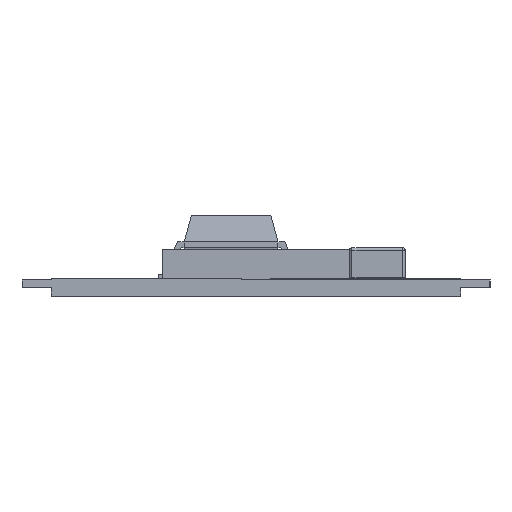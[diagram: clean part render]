
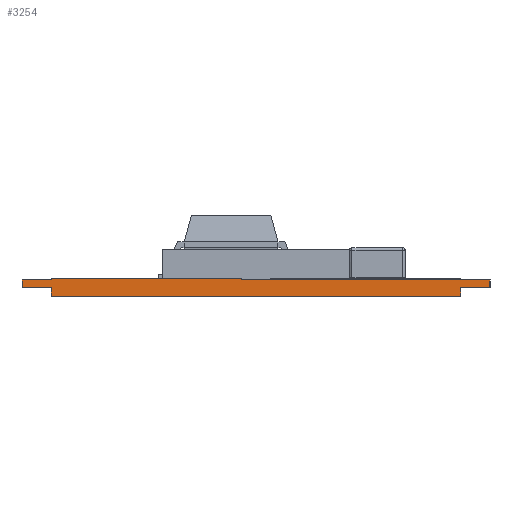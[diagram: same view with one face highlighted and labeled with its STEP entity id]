
A CAD part, left-side view. The second image highlights one B-rep face of the part: STEP entity #3254.
In plain terms, the highlighted planar face has unit normal (-1, 0, 0).
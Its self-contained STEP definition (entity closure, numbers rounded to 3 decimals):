
#308=DIRECTION('',(0.,-1.,0.));
#309=VECTOR('',#308,0.5);
#310=CARTESIAN_POINT('',(-25.,4.,0.15));
#311=LINE('',#310,#309);
#312=DIRECTION('',(0.,1.,0.));
#313=VECTOR('',#312,0.5);
#314=CARTESIAN_POINT('',(-25.,3.5,0.28));
#315=LINE('',#314,#313);
#316=DIRECTION('',(0.,1.,0.));
#317=VECTOR('',#316,3.25);
#318=CARTESIAN_POINT('',(-25.,0.25,0.3));
#319=LINE('',#318,#317);
#320=DIRECTION('',(0.,0.,1.));
#321=VECTOR('',#320,0.02);
#322=CARTESIAN_POINT('',(-25.,0.25,0.28));
#323=LINE('',#322,#321);
#324=DIRECTION('',(0.,1.,0.));
#325=VECTOR('',#324,0.5);
#326=CARTESIAN_POINT('',(-25.,-0.25,0.28));
#327=LINE('',#326,#325);
#328=DIRECTION('',(0.,1.,0.));
#329=VECTOR('',#328,3.25);
#330=CARTESIAN_POINT('',(-25.,-3.5,0.28));
#331=LINE('',#330,#329);
#332=DIRECTION('',(0.,1.,0.));
#333=VECTOR('',#332,0.5);
#334=CARTESIAN_POINT('',(-25.,-4.,0.28));
#335=LINE('',#334,#333);
#336=DIRECTION('',(0.,-1.,0.));
#337=VECTOR('',#336,0.5);
#338=CARTESIAN_POINT('',(-25.,-3.5,0.15));
#339=LINE('',#338,#337);
#340=DIRECTION('',(0.,0.,1.));
#341=VECTOR('',#340,0.15);
#342=CARTESIAN_POINT('',(-25.,-3.5,0.));
#343=LINE('',#342,#341);
#344=DIRECTION('',(0.,-1.,0.));
#345=VECTOR('',#344,7.);
#346=CARTESIAN_POINT('',(-25.,3.5,0.));
#347=LINE('',#346,#345);
#356=DIRECTION('',(0.,0.,1.));
#357=VECTOR('',#356,0.15);
#358=CARTESIAN_POINT('',(-25.,3.5,0.));
#359=LINE('',#358,#357);
#368=DIRECTION('',(0.,0.,1.));
#369=VECTOR('',#368,0.13);
#370=CARTESIAN_POINT('',(-25.,4.,0.15));
#371=LINE('',#370,#369);
#376=DIRECTION('',(0.,0.,1.));
#377=VECTOR('',#376,0.02);
#378=CARTESIAN_POINT('',(-25.,3.5,0.28));
#379=LINE('',#378,#377);
#440=DIRECTION('',(0.,0.,-1.));
#441=VECTOR('',#440,0.13);
#442=CARTESIAN_POINT('',(-25.,-4.,0.28));
#443=LINE('',#442,#441);
#2420=CARTESIAN_POINT('',(-25.,-3.5,0.28));
#2422=VERTEX_POINT('',#2420);
#2424=CARTESIAN_POINT('',(-25.,-0.25,0.28));
#2425=CARTESIAN_POINT('',(-25.,0.25,0.28));
#2426=VERTEX_POINT('',#2424);
#2427=VERTEX_POINT('',#2425);
#2428=CARTESIAN_POINT('',(-25.,3.5,0.));
#2429=CARTESIAN_POINT('',(-25.,-3.5,0.));
#2430=VERTEX_POINT('',#2428);
#2431=VERTEX_POINT('',#2429);
#2476=CARTESIAN_POINT('',(-25.,4.,0.15));
#2477=CARTESIAN_POINT('',(-25.,4.,0.28));
#2478=VERTEX_POINT('',#2476);
#2479=VERTEX_POINT('',#2477);
#2508=CARTESIAN_POINT('',(-25.,3.5,0.15));
#2509=VERTEX_POINT('',#2508);
#2536=CARTESIAN_POINT('',(-25.,-3.5,0.15));
#2537=CARTESIAN_POINT('',(-25.,-4.,0.15));
#2538=VERTEX_POINT('',#2536);
#2539=VERTEX_POINT('',#2537);
#2540=CARTESIAN_POINT('',(-25.,3.5,0.3));
#2541=VERTEX_POINT('',#2540);
#2542=CARTESIAN_POINT('',(-25.,0.25,0.3));
#2543=VERTEX_POINT('',#2542);
#2544=CARTESIAN_POINT('',(-25.,3.5,0.28));
#2545=VERTEX_POINT('',#2544);
#2570=CARTESIAN_POINT('',(-25.,-4.,0.28));
#2571=VERTEX_POINT('',#2570);
#3224=CARTESIAN_POINT('',(-25.,4.,0.28));
#3225=DIRECTION('',(-1.,0.,0.));
#3226=DIRECTION('',(0.,0.,1.));
#3227=AXIS2_PLACEMENT_3D('',#3224,#3225,#3226);
#3228=PLANE('',#3227);
#3230=ORIENTED_EDGE('',*,*,#3229,.T.);
#3232=ORIENTED_EDGE('',*,*,#3231,.F.);
#3234=ORIENTED_EDGE('',*,*,#3233,.T.);
#3235=ORIENTED_EDGE('',*,*,#2930,.F.);
#3237=ORIENTED_EDGE('',*,*,#3236,.T.);
#3239=ORIENTED_EDGE('',*,*,#3238,.F.);
#3241=ORIENTED_EDGE('',*,*,#3240,.F.);
#3242=ORIENTED_EDGE('',*,*,#2922,.F.);
#3244=ORIENTED_EDGE('',*,*,#3243,.F.);
#3245=ORIENTED_EDGE('',*,*,#2914,.F.);
#3247=ORIENTED_EDGE('',*,*,#3246,.T.);
#3249=ORIENTED_EDGE('',*,*,#3248,.F.);
#3250=ORIENTED_EDGE('',*,*,#3202,.F.);
#3251=ORIENTED_EDGE('',*,*,#3215,.F.);
#3252=EDGE_LOOP('',(#3230,#3232,#3234,#3235,#3237,#3239,#3241,#3242,#3244,#3245,
#3247,#3249,#3250,#3251));
#3253=FACE_OUTER_BOUND('',#3252,.F.);
#3254=ADVANCED_FACE('',(#3253),#3228,.T.);
#2914=EDGE_CURVE('',#2571,#2422,#335,.T.);
#2922=EDGE_CURVE('',#2426,#2427,#327,.T.);
#2930=EDGE_CURVE('',#2545,#2479,#315,.T.);
#3202=EDGE_CURVE('',#2431,#2538,#343,.T.);
#3215=EDGE_CURVE('',#2430,#2431,#347,.T.);
#3229=EDGE_CURVE('',#2430,#2509,#359,.T.);
#3231=EDGE_CURVE('',#2478,#2509,#311,.T.);
#3233=EDGE_CURVE('',#2478,#2479,#371,.T.);
#3236=EDGE_CURVE('',#2545,#2541,#379,.T.);
#3238=EDGE_CURVE('',#2543,#2541,#319,.T.);
#3240=EDGE_CURVE('',#2427,#2543,#323,.T.);
#3243=EDGE_CURVE('',#2422,#2426,#331,.T.);
#3246=EDGE_CURVE('',#2571,#2539,#443,.T.);
#3248=EDGE_CURVE('',#2538,#2539,#339,.T.);
